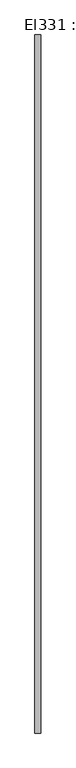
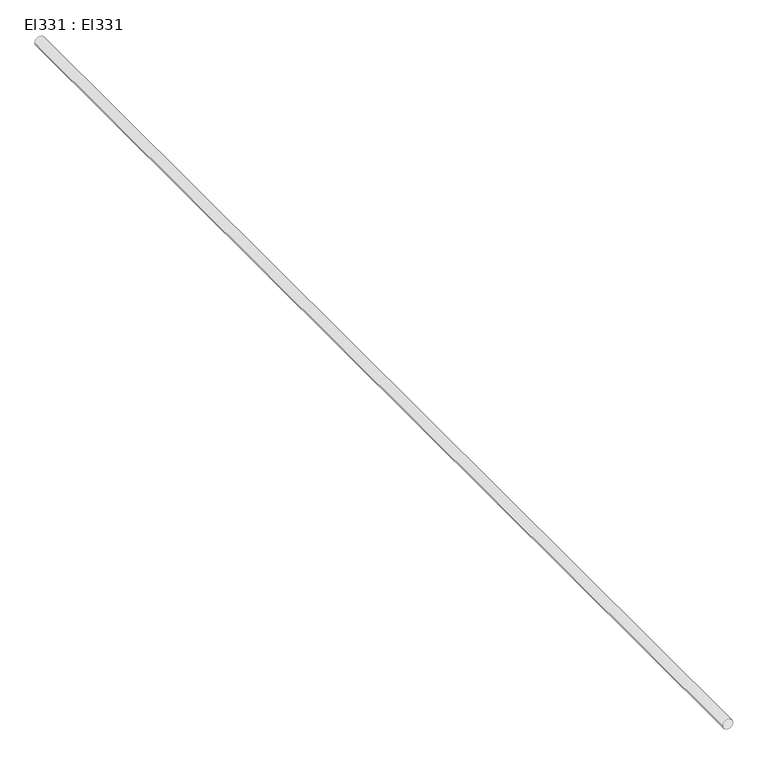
"""IFC4 building model written with IfcOpenShell, lengths in millimetres: cable carrier segment geometry, El331 : El331."""

import ifcopenshell
import ifcopenshell.guid

model = None  # the IFC model being written
_history = None  # IfcOwnerHistory: only IFC2X3 demands one
_inside = {}  # id of a spatial element -> (the spatial element, [elements in it])
_under = {}  # id of a project, library or spatial element -> (it, [spatial elements below it])
_declared = {}  # id of a project -> (the project, [libraries it declares])
_typed = {}  # id of a type object -> (the type object, [elements of that type])
_made_of = {}  # id of a material, layer set ... -> (it, [elements and type objects made of it])


def new_model(schema):
    """Start an empty IFC model of exactly this schema.

    Asked for "IFC4X3", IfcOpenShell would pick the latest addendum, in which some entities
    have other attributes; the version numbers below select the first issue.
    IFC2X3 requires an IfcOwnerHistory on every rooted entity: one is made here for all.
    """
    global model, _history
    if schema == "IFC4X3":
        model = ifcopenshell.file(schema_version=(4, 3, 0, 0))
    else:
        model = ifcopenshell.file(schema=schema)
    _inside.clear()
    _under.clear()
    _declared.clear()
    _typed.clear()
    _made_of.clear()
    _history = None
    if model.schema == "IFC2X3":
        org = make("IfcOrganization", Name="unknown")
        user = make(
            "IfcPersonAndOrganization",
            ThePerson=make("IfcPerson", FamilyName="unknown"),
            TheOrganization=org,
        )
        app = make(
            "IfcApplication",
            ApplicationDeveloper=org,
            Version="unknown",
            ApplicationFullName="unknown",
            ApplicationIdentifier="unknown",
        )
        _history = make(
            "IfcOwnerHistory",
            OwningUser=user,
            OwningApplication=app,
            ChangeAction="ADDED",
            CreationDate=0,
        )
    return model


def make(cls, **values):
    """One entity of the class cls with the attributes given. An attribute that is None is left unset."""
    return model.create_entity(
        cls, **{name: value for name, value in values.items() if value is not None}
    )


def rooted(cls, **values):
    """An entity with a GlobalId (a new one), such as an element, a storey or a relation."""
    return make(cls, GlobalId=ifcopenshell.guid.new(), OwnerHistory=_history, **values)


def si_unit(unit_type, name, prefix=None):
    """IfcSIUnit, for example si_unit("LENGTHUNIT", "METRE", prefix="MILLI")."""
    return make("IfcSIUnit", UnitType=unit_type, Prefix=prefix, Name=name)


def assignment(units):
    """IfcUnitAssignment: the units of a project."""
    return None if units is None else make("IfcUnitAssignment", Units=units)


def point(xyz):
    """IfcCartesianPoint."""
    return None if xyz is None else make("IfcCartesianPoint", Coordinates=xyz)


def direction(xyz):
    """IfcDirection."""
    return None if xyz is None else make("IfcDirection", DirectionRatios=xyz)


def frame(location, z_axis=None, x_axis=None):
    """IfcAxis2Placement3D, a coordinate frame: its origin and axes. An axis left out is left unset."""
    return make(
        "IfcAxis2Placement3D",
        Location=point(location),
        Axis=direction(z_axis),
        RefDirection=direction(x_axis),
    )


def frame_2d(location, x_axis=None):
    """IfcAxis2Placement2D, a coordinate frame in the plane: its origin and x axis."""
    return make(
        "IfcAxis2Placement2D", Location=point(location), RefDirection=direction(x_axis)
    )


def origin():
    """The frame at (0, 0, 0) with its axes left unset."""
    return frame((0.0, 0.0, 0.0))


def place(relative_to, where):
    """IfcLocalPlacement: puts the frame where relative to a parent placement (None: the world)."""
    return make(
        "IfcLocalPlacement", PlacementRelTo=relative_to, RelativePlacement=where
    )


def context(
    kind, dimensions, precision=None, world=None, true_north=None, identifier=None
):
    """IfcGeometricRepresentationContext, for example the 3D "Model" context."""
    return make(
        "IfcGeometricRepresentationContext",
        ContextIdentifier=identifier,
        ContextType=kind,
        CoordinateSpaceDimension=dimensions,
        Precision=precision,
        WorldCoordinateSystem=world,
        TrueNorth=true_north,
    )


def project(units=None, contexts=None):
    """IfcProject with its units and contexts."""
    return rooted(
        "IfcProject",
        Name="project",
        RepresentationContexts=contexts,
        UnitsInContext=assignment(units),
    )


def spatial(cls, under=None, at=None, **own):
    """A site, building, storey or space (cls), placed at a placement, below another one or the project."""
    s = rooted(cls, ObjectPlacement=at, **own)
    if under is not None:
        _under.setdefault(under.id(), (under, []))[1].append(s)
    return s


def circle_curve(where, radius):
    """IfcCircle in the frame where."""
    return make("IfcCircle", Position=where, Radius=radius)


def trimmed(basis, trim1, trim2, sense, master):
    """IfcTrimmedCurve: the piece of a basis curve between two trims."""
    return make(
        "IfcTrimmedCurve",
        BasisCurve=basis,
        Trim1=trim1,
        Trim2=trim2,
        SenseAgreement=sense,
        MasterRepresentation=master,
    )


def segment(curve, same_sense, transition):
    """IfcCompositeCurveSegment."""
    return make(
        "IfcCompositeCurveSegment",
        Transition=transition,
        SameSense=same_sense,
        ParentCurve=curve,
    )


def composite_curve(segments, self_intersect=None):
    """IfcCompositeCurve: segments joined end to end."""
    return make("IfcCompositeCurve", Segments=segments, SelfIntersect=self_intersect)


def outline(outer, holes=None, kind="AREA"):
    """IfcArbitraryClosedProfileDef: a profile drawn as a closed curve; with holes, ...WithVoids."""
    if holes is None:
        return make("IfcArbitraryClosedProfileDef", ProfileType=kind, OuterCurve=outer)
    return make(
        "IfcArbitraryProfileDefWithVoids",
        ProfileType=kind,
        OuterCurve=outer,
        InnerCurves=holes,
    )


def extrude(swept, where, along, depth):
    """IfcExtrudedAreaSolid: the profile swept, set in the frame where, extruded along a direction by depth."""
    return make(
        "IfcExtrudedAreaSolid",
        SweptArea=swept,
        Position=where,
        ExtrudedDirection=direction(along),
        Depth=depth,
    )


def shape(context_of_items, identifier, shape_type, items):
    """IfcShapeRepresentation: the items that make up one representation, for example the "Body"."""
    return make(
        "IfcShapeRepresentation",
        ContextOfItems=context_of_items,
        RepresentationIdentifier=identifier,
        RepresentationType=shape_type,
        Items=items,
    )


def source(mapping_origin, context_of_items, identifier, shape_type, items):
    """IfcRepresentationMap: a shape defined once, which mapped items show again and again."""
    return make(
        "IfcRepresentationMap",
        MappingOrigin=mapping_origin,
        MappedRepresentation=shape(context_of_items, identifier, shape_type, items),
    )


def transform(
    local_origin,
    x_axis=None,
    y_axis=None,
    z_axis=None,
    scale=None,
    scale2=None,
    scale3=None,
    uniform=True,
):
    """IfcCartesianTransformationOperator3D, or its non-uniform kind. x_axis, y_axis, z_axis: its Axis1, 2, 3."""
    if uniform:
        return make(
            "IfcCartesianTransformationOperator3D",
            Axis1=direction(x_axis),
            Axis2=direction(y_axis),
            LocalOrigin=point(local_origin),
            Scale=scale,
            Axis3=direction(z_axis),
        )
    return make(
        "IfcCartesianTransformationOperator3DnonUniform",
        Axis1=direction(x_axis),
        Axis2=direction(y_axis),
        LocalOrigin=point(local_origin),
        Scale=scale,
        Axis3=direction(z_axis),
        Scale2=scale2,
        Scale3=scale3,
    )


def mapped(mapping_source, mapping_target):
    """IfcMappedItem: shows the shape of a source again, moved by a transform."""
    return make(
        "IfcMappedItem", MappingSource=mapping_source, MappingTarget=mapping_target
    )


def made_of(thing, what):
    """Note that an element or type object is made of a material, layer set ...; save() writes the relation."""
    if what is not None:
        _made_of.setdefault(what.id(), (what, []))[1].append(thing)
    return thing


def element(
    cls,
    number,
    at=None,
    inside=None,
    cuts=None,
    type_object=None,
    material=None,
    context=None,
    identifier="Body",
    shape_type=None,
    held_by="IfcProductDefinitionShape",
    body=None,
    shapes=None,
    **own,
):
    """One element of the class cls, such as IfcWall. Its Tag is "e" and its number.

    at: its placement. inside: the storey or other place that contains it. cuts: it is an
    opening in that element (IfcRelVoidsElement). A single representation is given by context,
    identifier, shape_type and body (its items); several are given by shapes. held_by: the class
    of the entity that holds the representations. save() writes the other relations.
    """
    e = rooted(cls, Tag="e%d" % number, ObjectPlacement=at, **own)
    if body is not None:
        shapes = [shape(context, identifier, shape_type, body)]
    if shapes is not None:
        e.Representation = make(held_by, Representations=shapes)
    if inside is not None:
        _inside.setdefault(inside.id(), (inside, []))[1].append(e)
    if cuts is not None:
        rooted(
            "IfcRelVoidsElement", RelatingBuildingElement=cuts, RelatedOpeningElement=e
        )
    if type_object is not None:
        _typed.setdefault(type_object.id(), (type_object, []))[1].append(e)
    return made_of(e, material)


def aggregate(whole, parts):
    """IfcRelAggregates: a whole, such as a stair, and the parts it consists of."""
    return rooted("IfcRelAggregates", RelatingObject=whole, RelatedObjects=parts)


def save(model, path):
    """Write the relations noted so far, then the file.

    IfcRelAggregates (storeys below a building ...), IfcRelContainedInSpatialStructure (elements
    in a storey), IfcRelDefinesByType, IfcRelAssociatesMaterial and IfcRelDeclares: one each for
    every whole, place, type object, material and project.
    """
    for whole, parts in _under.values():
        aggregate(whole, parts)
    for where, things in _inside.values():
        rooted(
            "IfcRelContainedInSpatialStructure",
            RelatedElements=things,
            RelatingStructure=where,
        )
    for kind, things in _typed.values():
        rooted("IfcRelDefinesByType", RelatedObjects=things, RelatingType=kind)
    for what, things in _made_of.values():
        rooted("IfcRelAssociatesMaterial", RelatedObjects=things, RelatingMaterial=what)
    for by, libraries in _declared.values():
        rooted("IfcRelDeclares", RelatingContext=by, RelatedDefinitions=libraries)
    model.write(path)


def el331_el331_3490e877(model_context):
    return source(origin(), model_context, "Body", "SweptSolid", [
        extrude(outline(composite_curve([segment(trimmed(circle_curve(frame_2d((2950.0, 11300.0)), 9.5), [point((2950.0, 11290.5))], [point((2950.0, 11309.5))], False, "CARTESIAN"), True, "CONTINUOUS"), segment(trimmed(circle_curve(frame_2d((2950.0, 11300.0)), 9.5), [point((2950.0, 11309.5))], [point((2950.0, 11290.5))], False, "CARTESIAN"), True, "CONTINUOUS")], self_intersect=False)), frame((0.0, 9883.8, 0.0), z_axis=(0.0, 1.0, 0.0), x_axis=(0.0, 0.0, 1.0)), (0.0, 0.0, 1.0), 2225.0),
    ])


if __name__ == "__main__":
    model = new_model("IFC4")
    model_context = context("Model", 3, world=origin())
    ifc_project = project(units=[si_unit("LENGTHUNIT", "METRE", prefix="MILLI")], contexts=[model_context])
    site = spatial("IfcSite", under=ifc_project)
    building = spatial("IfcBuilding", under=site)
    placement = place(None, origin())
    el331_el331_shape = el331_el331_3490e877(model_context)
    element("IfcCableCarrierSegment", 1, ObjectType="El331 : El331", at=placement, inside=building, context=model_context, shape_type="MappedRepresentation", body=[
        mapped(el331_el331_shape, transform((0.0, 0.0, 0.0), x_axis=(1.0, 0.0, 0.0), y_axis=(0.0, 1.0, 0.0), z_axis=(0.0, 0.0, 1.0))),
    ])
    save(model, "model.ifc")
